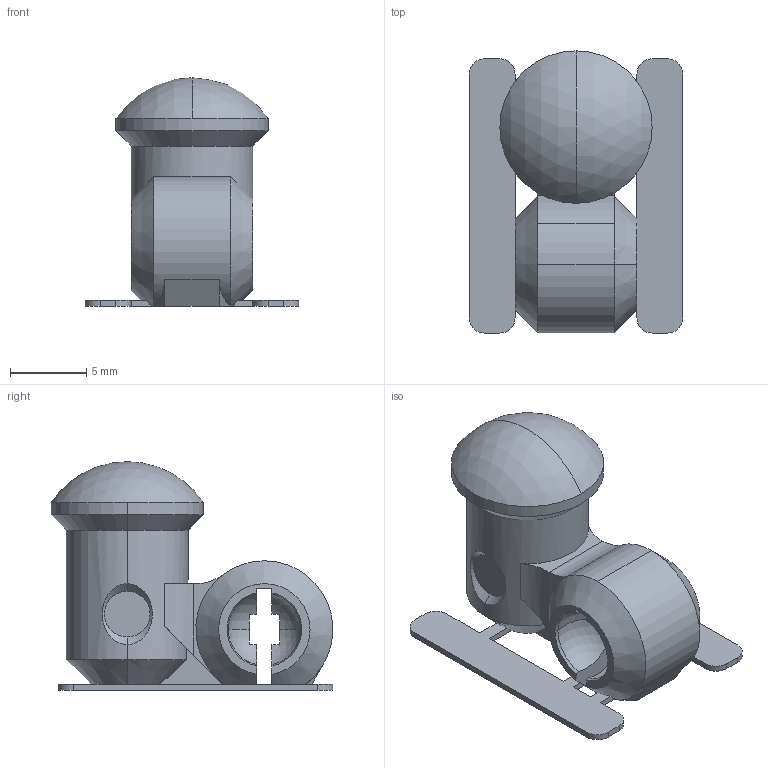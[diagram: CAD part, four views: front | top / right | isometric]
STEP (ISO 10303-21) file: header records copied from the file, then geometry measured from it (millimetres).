
FILE_DESCRIPTION (( 'STEP AP203' ), '1' );
FILE_NAME ('pelvis.step', '2023-08-24T11:43:24', ( '' ), ( '' ), 'SwSTEP 2.0', 'SolidWorks 2020', '' );
FILE_SCHEMA (( 'CONFIG_CONTROL_DESIGN' ));
Length unit declared in the file: millimetre
Products named in the file (1): pelvis
Bounding box: 14 x 18.5 x 15 mm (x, y, z)
Volume: 1122.8 mm3; surface area: 1093.6 mm2
Topology: 1 solids, 1 shells, 105 faces, 308 edges, 200 vertices
Faces by surface type: plane 58, cylinder 21, cone 16, sphere 10
Entity records: 3731 total; most frequent: CARTESIAN_POINT 866, ORIENTED_EDGE 616, DIRECTION 570, EDGE_CURVE 308, AXIS2_PLACEMENT_3D 208, VERTEX_POINT 200, LINE 154, VECTOR 154
